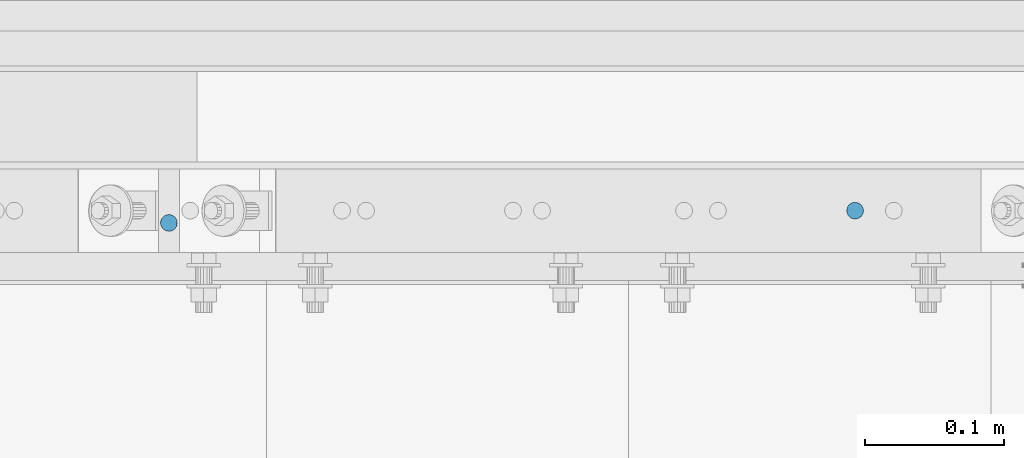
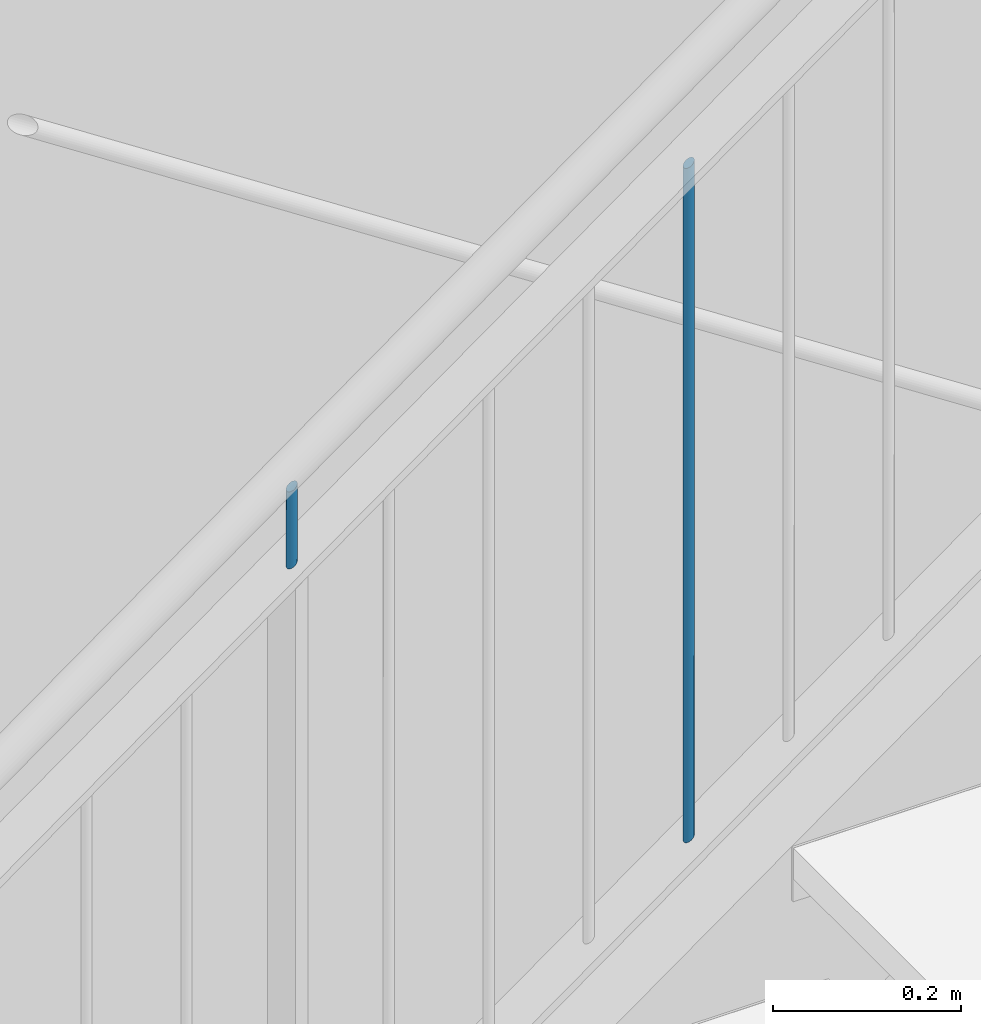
# One storey, part 73 of 831: 2 columns.
"""IFC2X3 building model written with IfcOpenShell, lengths in millimetres."""

from ifc_helpers import new_model, entity, si_unit, converted_unit, frame, origin, origin_with_axes, origin_2d, place, context, project, spatial, circle, extrude, clip, halfspace, material, element, save


model = new_model("IFC2X3")

# Units and contexts
model_context = context("Model", 3, precision=1e-09, world=origin_with_axes())
ifc_project = project(units=[si_unit("LENGTHUNIT", "METRE", prefix="MILLI"), si_unit("AREAUNIT", "SQUARE_METRE"), si_unit("VOLUMEUNIT", "CUBIC_METRE"), converted_unit("PLANEANGLEUNIT", "DEGREE", entity("IfcPlaneAngleMeasure", 0.01745329), si_unit("PLANEANGLEUNIT", "RADIAN"), dimensions=[0, 0, 0, 0, 0, 0, 0])], contexts=[model_context])

# Site, building, storey
site_placement = place(None, origin_with_axes())
site = spatial("IfcSite", under=ifc_project, at=site_placement, Name="Site", CompositionType="ELEMENT")
building_placement = place(site_placement, origin_with_axes())
building = spatial("IfcBuilding", under=site, at=building_placement, Name="Struktur 1", CompositionType="ELEMENT")
storey_placement = place(building_placement, origin_with_axes())
storey = spatial("IfcBuildingStorey", under=building, at=storey_placement, Name="Default Storey", CompositionType="ELEMENT", Elevation=0.0)

# Columns
ifc_material = material(Name="S235JR")
column_1_placement = place(None, frame((6179.213617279, 7356.736971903, 16904.40608515), z_axis=(0.0, 0.0, 1.0), x_axis=(1.0, 0.0, 0.0)))
element("IfcColumn", 1, at=column_1_placement, inside=storey, material=ifc_material, Name="Railing_Picket_Stair#10", ObjectType="Railing_Picket_Stair#10", context=model_context, shape_type="Clipping", body=[
    clip(clip(extrude(circle(Radius=6.0, at=origin_2d()), origin(), (0.0, 0.0, -1.0), 896.220460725), halfspace(frame((-12080.457988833, -7356.736971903, -8705.730696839), z_axis=(0.584187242, 0.0, -0.811618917), x_axis=(0.0, 1.0, 0.0)), True)), halfspace(frame((-11665.441489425, -7356.736971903, -9282.318505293), z_axis=(-0.584187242, 0.0, 0.811618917), x_axis=(0.0, -1.0, 0.0)), True)),
])
column_2_placement = place(None, frame((5686.71354585, 7347.936971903, 16662.23532896), z_axis=(0.0, 0.0, 1.0), x_axis=(0.0, -1.0, 0.0)))
element("IfcColumn", 2, at=column_2_placement, inside=storey, material=ifc_material, Name="Bar#1", ObjectType="Bar#1", context=model_context, shape_type="Clipping", body=[
    clip(clip(extrude(circle(Radius=6.0, at=origin_2d()), origin(), (0.0, 0.0, -1.0), 120.909520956), halfspace(frame((7347.936971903, -11593.8009582, -8455.442128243), z_axis=(0.0, -0.584187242, 0.811618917), x_axis=(1.0, 0.0, 0.0)), True)), halfspace(frame((7347.936971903, -11641.213531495, -8389.571224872), z_axis=(0.0, 0.584187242, -0.811618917), x_axis=(-1.0, 0.0, 0.0)), True)),
])

save(model, "model.ifc")
